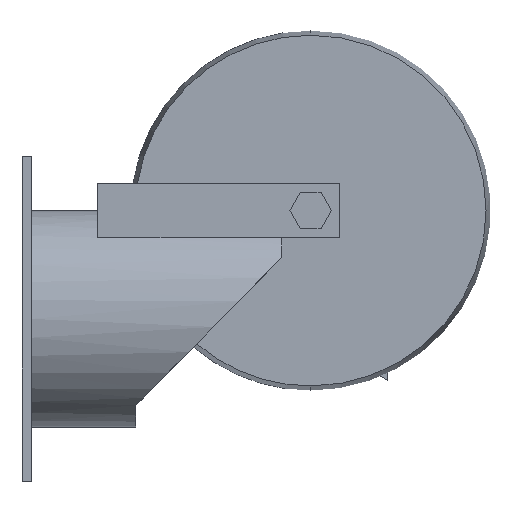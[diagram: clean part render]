
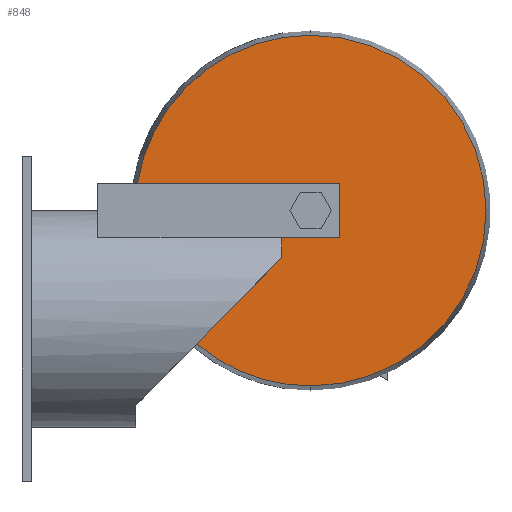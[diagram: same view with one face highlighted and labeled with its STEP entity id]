
A CAD part, left-side view. The second image highlights one B-rep face of the part: STEP entity #848.
In plain terms, the highlighted planar face has unit normal (-1, 0, 0).
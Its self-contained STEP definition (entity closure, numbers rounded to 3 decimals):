
#29 = LINE ( 'NONE', #1478, #1401 ) ;
#30 = DIRECTION ( 'NONE',  ( 0., 0., -1. ) ) ;
#60 = CARTESIAN_POINT ( 'NONE',  ( -14.5, -80., 37.5 ) ) ;
#143 = EDGE_CURVE ( 'NONE', #202, #1495, #443, .T. ) ;
#202 = VERTEX_POINT ( 'NONE', #342 ) ;
#223 = CARTESIAN_POINT ( 'NONE',  ( -14.5, -31.5, -24. ) ) ;
#225 = AXIS2_PLACEMENT_3D ( 'NONE', #498, #327, #30 ) ;
#251 = EDGE_LOOP ( 'NONE', ( #1810, #451, #1197, #1179, #1833, #1365, #487, #956 ) ) ;
#263 = EDGE_CURVE ( 'NONE', #1385, #445, #1675, .T. ) ;
#288 = CIRCLE ( 'NONE', #669, 48.585 ) ;
#327 = DIRECTION ( 'NONE',  ( 1., 0., 0. ) ) ;
#342 = CARTESIAN_POINT ( 'NONE',  ( -14.5, -88., 22.5 ) ) ;
#420 = CARTESIAN_POINT ( 'NONE',  ( -14.5, -80., 78.585 ) ) ;
#439 = VECTOR ( 'NONE', #911, 1000. ) ;
#443 = LINE ( 'NONE', #570, #587 ) ;
#445 = VERTEX_POINT ( 'NONE', #420 ) ;
#451 = ORIENTED_EDGE ( 'NONE', *, *, #1122, .F. ) ;
#465 = CARTESIAN_POINT ( 'NONE',  ( -14.5, -31.997, 37.5 ) ) ;
#469 = CARTESIAN_POINT ( 'NONE',  ( -14.5, -72., 30. ) ) ;
#483 = DIRECTION ( 'NONE',  ( 0., -1., 0. ) ) ;
#487 = ORIENTED_EDGE ( 'NONE', *, *, #715, .F. ) ;
#498 = CARTESIAN_POINT ( 'NONE',  ( -14.5, -80., 30. ) ) ;
#513 = DIRECTION ( 'NONE',  ( 1., 0., 0. ) ) ;
#570 = CARTESIAN_POINT ( 'NONE',  ( -14.5, -88., 30. ) ) ;
#587 = VECTOR ( 'NONE', #838, 1000. ) ;
#616 = CARTESIAN_POINT ( 'NONE',  ( -14.5, -48.393, -6.898 ) ) ;
#622 = EDGE_CURVE ( 'NONE', #808, #202, #29, .T. ) ;
#631 = DIRECTION ( 'NONE',  ( 0., 1., 0. ) ) ;
#669 = AXIS2_PLACEMENT_3D ( 'NONE', #1330, #1340, #1204 ) ;
#678 = EDGE_CURVE ( 'NONE', #445, #1637, #288, .T. ) ;
#686 = PLANE ( 'NONE',  #1093 ) ;
#715 = EDGE_CURVE ( 'NONE', #1637, #1040, #1306, .T. ) ;
#808 = VERTEX_POINT ( 'NONE', #1255 ) ;
#838 = DIRECTION ( 'NONE',  ( 0., 0., 1. ) ) ;
#848 = ADVANCED_FACE ( 'NONE', ( #1562 ), #686, .F. ) ;
#911 = DIRECTION ( 'NONE',  ( 0., 0., 1. ) ) ;
#956 = ORIENTED_EDGE ( 'NONE', *, *, #678, .F. ) ;
#1040 = VERTEX_POINT ( 'NONE', #616 ) ;
#1093 = AXIS2_PLACEMENT_3D ( 'NONE', #1140, #1712, #1118 ) ;
#1118 = DIRECTION ( 'NONE',  ( 0., 0., -1. ) ) ;
#1122 = EDGE_CURVE ( 'NONE', #1495, #1385, #1210, .T. ) ;
#1140 = CARTESIAN_POINT ( 'NONE',  ( -14.5, -80., 30. ) ) ;
#1158 = EDGE_CURVE ( 'NONE', #1224, #1040, #1662, .T. ) ;
#1179 = ORIENTED_EDGE ( 'NONE', *, *, #622, .F. ) ;
#1185 = VECTOR ( 'NONE', #631, 1000. ) ;
#1197 = ORIENTED_EDGE ( 'NONE', *, *, #143, .F. ) ;
#1204 = DIRECTION ( 'NONE',  ( 0., 0., -1. ) ) ;
#1210 = LINE ( 'NONE', #60, #1185 ) ;
#1224 = VERTEX_POINT ( 'NONE', #1682 ) ;
#1255 = CARTESIAN_POINT ( 'NONE',  ( -14.5, -72., 22.5 ) ) ;
#1306 = CIRCLE ( 'NONE', #1762, 48.585 ) ;
#1330 = CARTESIAN_POINT ( 'NONE',  ( -14.5, -80., 30. ) ) ;
#1333 = CARTESIAN_POINT ( 'NONE',  ( -14.5, -80., -18.585 ) ) ;
#1340 = DIRECTION ( 'NONE',  ( 1., 0., 0. ) ) ;
#1365 = ORIENTED_EDGE ( 'NONE', *, *, #1158, .T. ) ;
#1385 = VERTEX_POINT ( 'NONE', #465 ) ;
#1389 = DIRECTION ( 'NONE',  ( 0., 0., -1. ) ) ;
#1401 = VECTOR ( 'NONE', #483, 1000. ) ;
#1478 = CARTESIAN_POINT ( 'NONE',  ( -14.5, -80., 22.5 ) ) ;
#1495 = VERTEX_POINT ( 'NONE', #1835 ) ;
#1556 = VECTOR ( 'NONE', #1692, 1000. ) ;
#1562 = FACE_OUTER_BOUND ( 'NONE', #251, .T. ) ;
#1637 = VERTEX_POINT ( 'NONE', #1333 ) ;
#1662 = LINE ( 'NONE', #223, #1556 ) ;
#1675 = CIRCLE ( 'NONE', #225, 48.585 ) ;
#1681 = CARTESIAN_POINT ( 'NONE',  ( -14.5, -80., 30. ) ) ;
#1682 = CARTESIAN_POINT ( 'NONE',  ( -14.5, -72., 17. ) ) ;
#1692 = DIRECTION ( 'NONE',  ( 0., 0.703, -0.711 ) ) ;
#1712 = DIRECTION ( 'NONE',  ( 1., 0., 0. ) ) ;
#1762 = AXIS2_PLACEMENT_3D ( 'NONE', #1681, #513, #1389 ) ;
#1782 = LINE ( 'NONE', #469, #439 ) ;
#1804 = EDGE_CURVE ( 'NONE', #1224, #808, #1782, .T. ) ;
#1810 = ORIENTED_EDGE ( 'NONE', *, *, #263, .F. ) ;
#1833 = ORIENTED_EDGE ( 'NONE', *, *, #1804, .F. ) ;
#1835 = CARTESIAN_POINT ( 'NONE',  ( -14.5, -88., 37.5 ) ) ;
